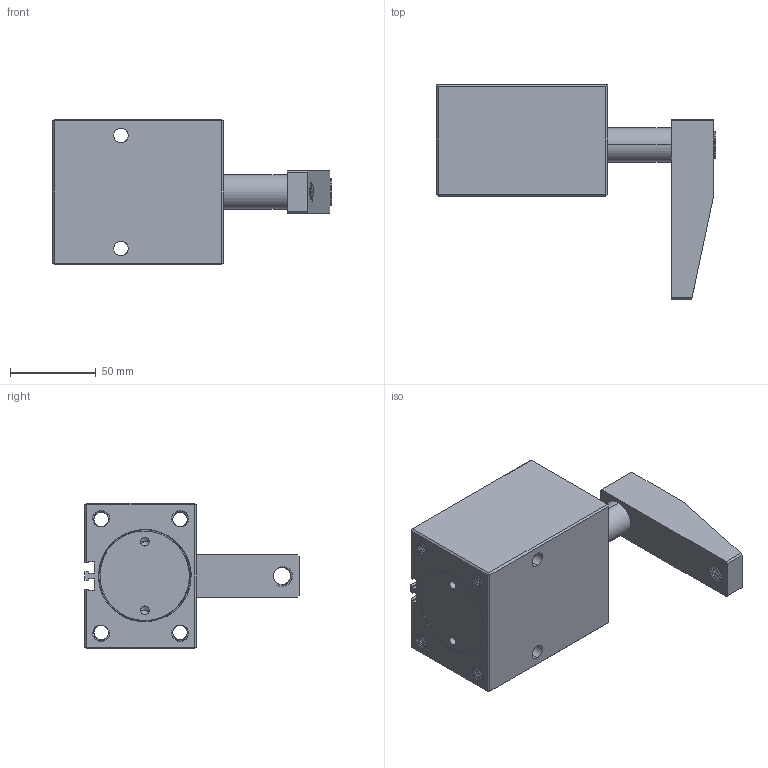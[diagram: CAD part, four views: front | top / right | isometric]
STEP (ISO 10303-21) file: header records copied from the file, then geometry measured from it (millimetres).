
FILE_DESCRIPTION((''),'2;1');
FILE_NAME('PSB-50_ASM','2010-02-04T',('Administrator'),(''),'PRO/ENGINEER BY PARAMETRIC TECHNOLOGY CORPORATION, 2007170','PRO/ENGINEER BY PARAMETRIC TECHNOLOGY CORPORATION, 2007170','');
FILE_SCHEMA(('CONFIG_CONTROL_DESIGN'));
Length unit declared in the file: millimetre
Products named in the file (6): PSB-50BT; PSB-50HSG; PSB-50HG; PSB-50YB; M10LC; PSB-50_ASM
Assembly tree (5 placements, depth 2):
  PSB-50_ASM
    PSB-50BT
    PSB-50HSG
    PSB-50HG
    PSB-50YB
    M10LC
Bounding box: 163 x 125 x 85 mm (x, y, z)
Volume: 502684.1 mm3; surface area: 116501 mm2
Topology: 5 solids, 5 shells, 605 faces, 1630 edges, 1047 vertices
Faces by surface type: cylinder 372, bspline 97, plane 95, torus 28, cone 13
Entity records: 45918 total; most frequent: CARTESIAN_POINT 32286, ORIENTED_EDGE 3248, DIRECTION 2084, EDGE_CURVE 1624, VERTEX_POINT 1047, B_SPLINE_CURVE_WITH_KNOTS 783, AXIS2_PLACEMENT_3D 724, EDGE_LOOP 653
